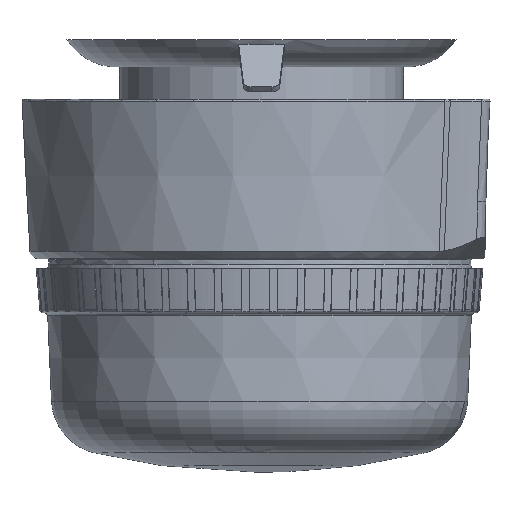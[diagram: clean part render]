
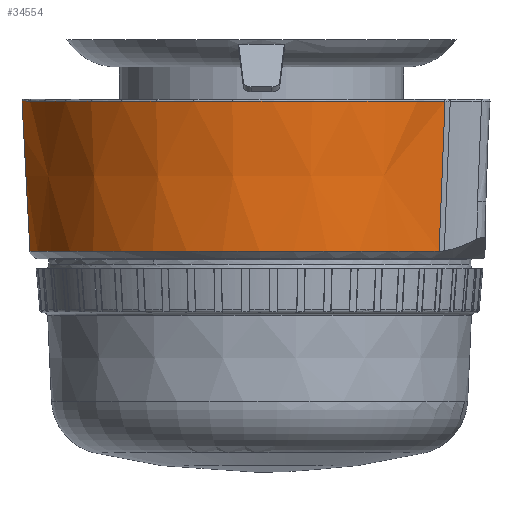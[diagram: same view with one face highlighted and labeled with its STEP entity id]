
A CAD part, left-side view. The second image highlights one B-rep face of the part: STEP entity #34554.
In plain terms, the highlighted conical face has half-angle 3 degrees and reference radius 0.2 mm.
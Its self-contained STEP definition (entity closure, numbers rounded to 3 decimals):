
#2141=ELLIPSE('',#36754,873.447,8.042);
#2159=ELLIPSE('',#36780,873.447,8.042);
#4620=FACE_OUTER_BOUND('',#6820,.T.);
#6820=EDGE_LOOP('',(#30850,#30851,#30852,#30853,#30854,#30855));
#7776=CIRCLE('',#36838,61.512);
#7778=CIRCLE('',#36841,59.49);
#7780=CIRCLE('',#36843,59.49);
#9975=B_SPLINE_CURVE_WITH_KNOTS('',3,(#152484,#152485,#152486,#152487),
 .UNSPECIFIED.,.F.,.F.,(4,4),(0.,1.),.UNSPECIFIED.);
#16204=VERTEX_POINT('',#147345);
#16207=VERTEX_POINT('',#147350);
#16240=VERTEX_POINT('',#147526);
#16303=VERTEX_POINT('',#152417);
#16305=VERTEX_POINT('',#152422);
#16306=VERTEX_POINT('',#152429);
#21143=EDGE_CURVE('',#16204,#16207,#2141,.T.);
#21189=EDGE_CURVE('',#16240,#16204,#2159,.T.);
#21274=EDGE_CURVE('',#16303,#16240,#7776,.T.);
#21277=EDGE_CURVE('',#16306,#16305,#7778,.T.);
#21280=EDGE_CURVE('',#16207,#16306,#7780,.T.);
#21288=EDGE_CURVE('',#16305,#16303,#9975,.T.);
#30850=ORIENTED_EDGE('',*,*,#21280,.T.);
#30851=ORIENTED_EDGE('',*,*,#21277,.T.);
#30852=ORIENTED_EDGE('',*,*,#21288,.T.);
#30853=ORIENTED_EDGE('',*,*,#21274,.T.);
#30854=ORIENTED_EDGE('',*,*,#21189,.T.);
#30855=ORIENTED_EDGE('',*,*,#21143,.T.);
#32780=CONICAL_SURFACE('',#36845,0.2,0.052);
#34554=ADVANCED_FACE('',(#4620),#32780,.T.);
#36754=AXIS2_PLACEMENT_3D('',#147354,#42252,#42253);
#36780=AXIS2_PLACEMENT_3D('',#147534,#42324,#42325);
#36838=AXIS2_PLACEMENT_3D('',#152418,#42451,#42452);
#36841=AXIS2_PLACEMENT_3D('',#152430,#42457,#42458);
#36843=AXIS2_PLACEMENT_3D('',#152434,#42462,#42463);
#36845=AXIS2_PLACEMENT_3D('',#152483,#42466,#42467);
#42252=DIRECTION('center_axis',(0.,-0.999,
0.053));
#42253=DIRECTION('ref_axis',(0.,0.053,0.999));
#42324=DIRECTION('center_axis',(0.,-0.999,
0.053));
#42325=DIRECTION('ref_axis',(0.,0.053,0.999));
#42451=DIRECTION('center_axis',(0.,0.,-1.));
#42452=DIRECTION('ref_axis',(1.,0.,0.));
#42457=DIRECTION('center_axis',(0.,0.,1.));
#42458=DIRECTION('ref_axis',(1.,0.,0.));
#42462=DIRECTION('center_axis',(0.,0.,1.));
#42463=DIRECTION('ref_axis',(1.,0.,0.));
#42466=DIRECTION('center_axis',(0.,0.,1.));
#42467=DIRECTION('ref_axis',(-0.961,0.276,0.));
#147345=CARTESIAN_POINT('',(-7.59,61.042,32.168));
#147350=CARTESIAN_POINT('',(-7.706,58.988,-6.422));
#147354=CARTESIAN_POINT('Origin',(0.,45.711,
-255.944));
#147526=CARTESIAN_POINT('',(-7.59,61.042,32.168));
#147534=CARTESIAN_POINT('Origin',(0.,45.711,
-255.944));
#152417=CARTESIAN_POINT('',(-38.889,-47.659,32.168));
#152418=CARTESIAN_POINT('Origin',(0.,0.,32.168));
#152422=CARTESIAN_POINT('',(-37.549,-46.142,-6.422));
#152429=CARTESIAN_POINT('',(-59.49,0.,-6.422));
#152430=CARTESIAN_POINT('Origin',(0.,0.,-6.422));
#152434=CARTESIAN_POINT('Origin',(0.,0.,-6.422));
#152483=CARTESIAN_POINT('Origin',(0.,0.,-1137.74));
#152484=CARTESIAN_POINT('Ctrl Pts',(-37.549,-46.142,
-6.422));
#152485=CARTESIAN_POINT('Ctrl Pts',(-37.995,-46.648,
6.441));
#152486=CARTESIAN_POINT('Ctrl Pts',(-38.442,-47.154,
19.305));
#152487=CARTESIAN_POINT('Ctrl Pts',(-38.889,-47.659,
32.168));
